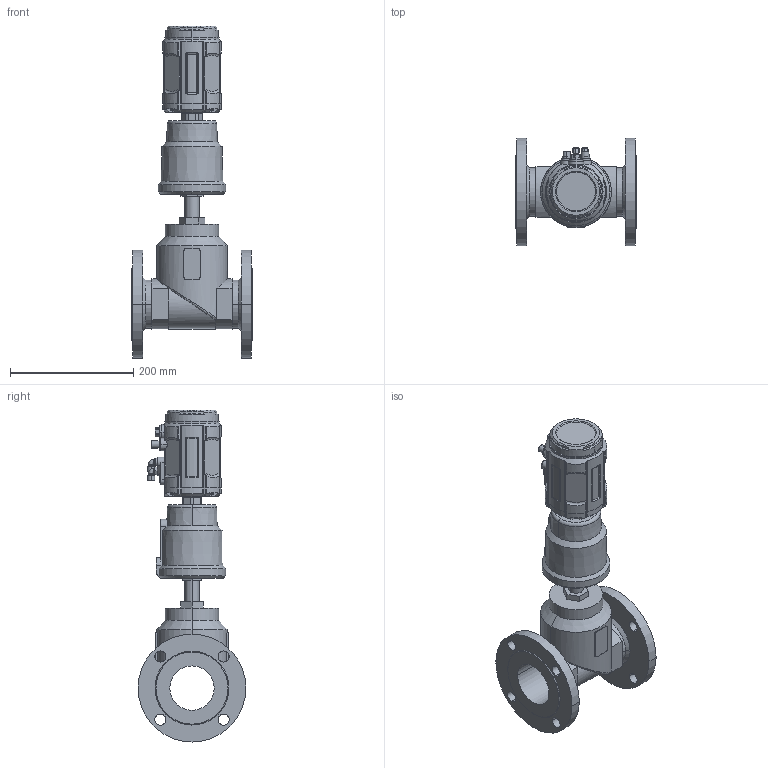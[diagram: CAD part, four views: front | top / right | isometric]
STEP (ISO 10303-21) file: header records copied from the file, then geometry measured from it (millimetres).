
FILE_DESCRIPTION((''),'2;1');
FILE_NAME('PV_F_EPP_P_2_ASM','2025-03-06T',('USER'),(''),'PRO/ENGINEER BY PARAMETRIC TECHNOLOGY CORPORATION, 2011220','PRO/ENGINEER BY PARAMETRIC TECHNOLOGY CORPORATION, 2011220','');
FILE_SCHEMA(('CONFIG_CONTROL_DESIGN'));
Length unit declared in the file: millimetre
Products named in the file (12): KLAPAN; PNEVMOPRIVOD; KOLCO_52_GOST13943; POZICIONER_VERX; POZICIONER_NIZ; SHLYAPKA_VINT; DET; DET_2; SHLYAPKA_VINT_2; DET_3; SB_POZICIONER_ASM; PV_F_EPP_P_2_ASM
Assembly tree (18 placements, depth 3):
  PV_F_EPP_P_2_ASM
    KLAPAN
    PNEVMOPRIVOD
    KOLCO_52_GOST13943
    SB_POZICIONER_ASM
      POZICIONER_VERX
      POZICIONER_NIZ
      SHLYAPKA_VINT  x4
      DET
      DET_2
      SHLYAPKA_VINT_2  x4
      DET_3  x2
Bounding box: 196 x 175 x 539 mm (x, y, z)
Volume: 3643217.1 mm3; surface area: 376456.5 mm2
Topology: 17 solids, 22 shells, 820 faces, 2066 edges, 1350 vertices
Faces by surface type: plane 395, cylinder 327, cone 50, torus 24, bspline 12, sphere 12
Entity records: 22082 total; most frequent: CARTESIAN_POINT 5334, DIRECTION 3509, ORIENTED_EDGE 3386, EDGE_CURVE 1703, AXIS2_PLACEMENT_3D 1324, VERTEX_POINT 1115, VECTOR 861, LINE 861
